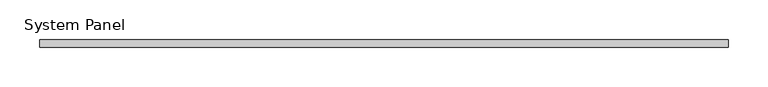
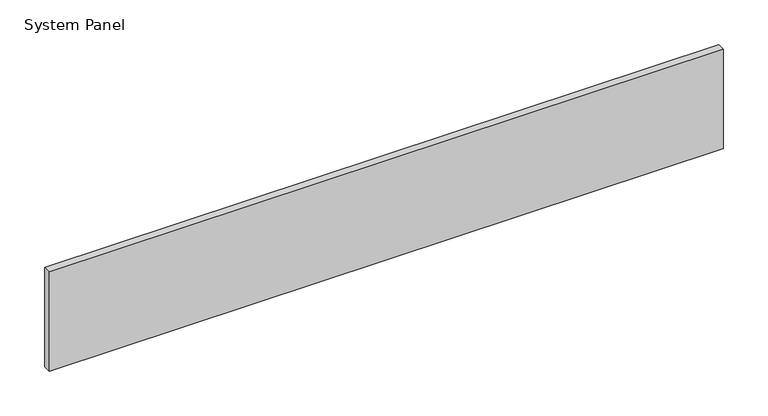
"""IFC4 building model written with IfcOpenShell, lengths in millimetres: plate geometry, System Panel : VACÍO."""

from ifc_helpers import new_model, si_unit, origin, origin_with_axes, place, context, project, spatial, polyline, outline, extrude, source, transform, mapped, element, save


def system_panel_f6bb8de1(model_context):
    return source(origin(), model_context, "Body", "SweptSolid", [
        extrude(outline(polyline([(436.0218271, -5.0), (-436.0218271, -5.0), (-436.0218271, 5.0), (436.0218271, 5.0), (436.0218271, -5.0)])), origin_with_axes(), (0.0, 0.0, 1.0), 136.0),
    ])


if __name__ == "__main__":
    model = new_model("IFC4")
    model_context = context("Model", 3, world=origin())
    ifc_project = project(units=[si_unit("LENGTHUNIT", "METRE", prefix="MILLI")], contexts=[model_context])
    site = spatial("IfcSite", under=ifc_project)
    building = spatial("IfcBuilding", under=site)
    placement = place(None, origin())
    system_panel_shape = system_panel_f6bb8de1(model_context)
    element("IfcPlate", 1, ObjectType="System Panel : VACÍO", at=placement, inside=building, context=model_context, shape_type="MappedRepresentation", body=[
        mapped(system_panel_shape, transform((0.0, 0.0, 0.0), x_axis=(1.0, 0.0, 0.0), y_axis=(0.0, 1.0, 0.0), z_axis=(0.0, 0.0, 1.0))),
    ])
    save(model, "model.ifc")
